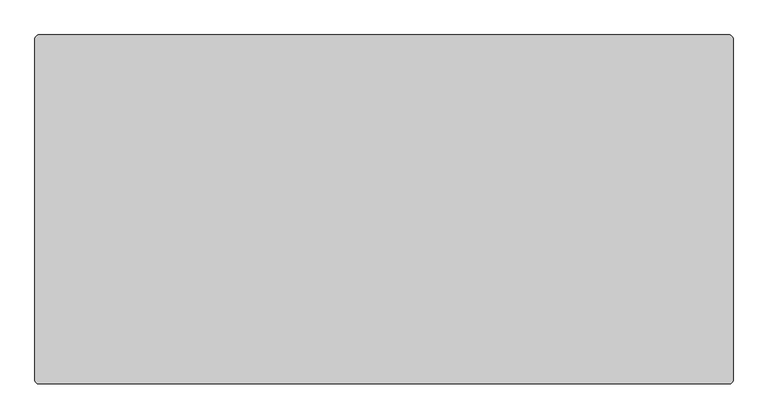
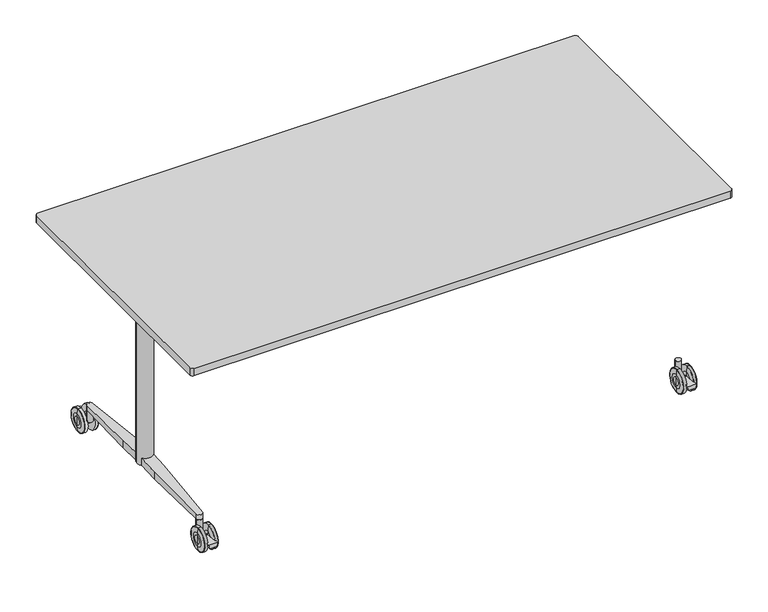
"""IFC4 building model written with IfcOpenShell, lengths in millimetres: furniture geometry."""

from ifc_helpers import new_model, si_unit, point, frame, frame_2d, origin, place, context, project, spatial, polyline, circle_curve, ellipse_curve, trimmed, segment, composite_curve, outline, extrude, source, transform, mapped, element, save
from ifc_brep_helpers import plane_surface, cylinder_surface, revolved_surface, advanced_brep


def furniture_9defe6de(model_context):
    return source(origin(), model_context, "Body", "SolidModel", [
        extrude(outline(composite_curve([segment(trimmed(circle_curve(frame_2d((-890.0, 565.9511544)), 10.0), [point((-900.0, 565.9511544))], [point((-890.0, 575.9511544))], False, "CARTESIAN"), True, "CONTINUOUS"), segment(polyline([(-890.0, 575.9511544), (890.0, 575.9511544)]), True, "CONTINUOUS"), segment(trimmed(circle_curve(frame_2d((890.0, 565.9511544)), 10.0), [point((890.0, 575.9511544))], [point((900.0, 565.9511544))], False, "CARTESIAN"), True, "CONTINUOUS"), segment(polyline([(900.0, 565.9511544), (900.0, -314.0488456)]), True, "CONTINUOUS"), segment(trimmed(circle_curve(frame_2d((890.0, -314.0488456)), 10.0), [point((900.0, -314.0488456))], [point((890.0, -324.0488456))], False, "CARTESIAN"), True, "CONTINUOUS"), segment(polyline([(890.0, -324.0488456), (-890.0, -324.0488456)]), True, "CONTINUOUS"), segment(trimmed(circle_curve(frame_2d((-890.0, -314.0488456)), 10.0), [point((-890.0, -324.0488456))], [point((-900.0, -314.0488456))], False, "CARTESIAN"), True, "CONTINUOUS"), segment(polyline([(-900.0, -314.0488456), (-900.0, 565.9511544)]), True, "CONTINUOUS")], self_intersect=False)), frame((0.0, 0.0, 705.0), z_axis=(0.0, 0.0, 1.0), x_axis=(1.0, 0.0, 0.0)), (0.0, 0.0, 1.0), 25.0),
        extrude(outline(polyline([(46.8012701, -809.9796901), (33.7579803, -807.2784737), (33.7579803, -783.5602115), (46.8012701, -780.8589951), (46.8012701, -809.9796901)])), frame((0.0, -269.0488456, 0.0), z_axis=(0.0, 1.0, 0.0), x_axis=(0.0, 0.0, 1.0)), (0.0, 0.0, 1.0), 50.0),
        extrude(outline(composite_curve([segment(trimmed(circle_curve(frame_2d((-795.5388896, -188.8396127)), 9.5), [point((-805.0388896, -188.8396127))], [point((-786.0388896, -188.8396127))], False, "CARTESIAN"), True, "CONTINUOUS"), segment(trimmed(circle_curve(frame_2d((-795.5388896, -188.8396127)), 9.5), [point((-786.0388896, -188.8396127))], [point((-805.0388896, -188.8396127))], False, "CARTESIAN"), True, "CONTINUOUS")], self_intersect=False)), frame((0.0, 0.0, 50.0000143), z_axis=(0.0, 0.0, 1.0), x_axis=(1.0, 0.0, 0.0)), (0.0, 0.0, 1.0), 38.8098324),
        advanced_brep(
        [(-770.4530674, -219.0488456, 26.9613134), (-770.4530674, -219.0488456, 53.0387194), (-770.4530674, -219.0488456, 40.0000164), (-772.5845915, -219.0488456, 0.8972162), (-772.5845915, -219.0488456, 79.1028166), (-771.0121742, -219.0488456, 63.8876748), (-771.0121742, -219.0488456, 16.1123581), (-783.5439759, -219.0488456, 1.43e-05), (-783.5439759, -219.0488456, 80.0000185), (-773.5792938, -219.0488456, 80.0000185), (-773.5792938, -219.0488456, 1.43e-05), (-785.4530966, -219.0488456, 20.9999281), (-785.4530966, -219.0488456, 59.0001048), (-785.4530966, -219.0488456, 32.3463502), (-785.4530966, -219.0488456, 47.6536826), (-805.3531174, -219.0488456, 32.3463502), (-805.3531174, -219.0488456, 47.6536826), (-805.3531174, -219.0488456, 20.9999281), (-805.3531174, -219.0488456, 59.0001048), (-807.2622381, -219.0488456, 1.43e-05), (-807.2622381, -219.0488456, 80.0000185), (-816.3249398, -219.0488456, 1.43e-05), (-816.3249398, -219.0488456, 80.0000185), (-819.7942336, -219.0488456, 16.1142331), (-819.7942336, -219.0488456, 63.8857997), (-818.3143443, -219.0488456, 78.2056147), (-818.3143443, -219.0488456, 1.7944182), (-820.3531466, -219.0488456, 40.0000164), (-820.3531466, -219.0488456, 53.0406045), (-820.3531466, -219.0488456, 26.9594284)],
        [
            (0, 1, circle_curve(frame((-770.4530674, -219.0488456, 40.0000164), z_axis=(1.0, 0.0, 0.0), x_axis=(0.0, 0.0, 1.0)), 13.038703)),
            (1, 2),
            (2, 0),
            (1, 0, circle_curve(frame((-770.4530674, -219.0488456, 40.0000164), z_axis=(1.0, 0.0, 0.0), x_axis=(0.0, 0.0, 1.0)), 13.038703)),
            (3, 4, circle_curve(frame((-772.5845915, -219.0488456, 40.0000164), z_axis=(1.0, 0.0, 0.0), x_axis=(0.0, 0.0, 1.0)), 39.1028002)),
            (4, 5),
            (5, 6, circle_curve(frame((-771.0121742, -219.0488456, 40.0000164), z_axis=(-1.0, 0.0, 0.0), x_axis=(0.0, 0.0, 1.0)), 23.8876584)),
            (6, 3),
            (4, 3, circle_curve(frame((-772.5845915, -219.0488456, 40.0000164), z_axis=(1.0, 0.0, 0.0), x_axis=(0.0, 0.0, 1.0)), 39.1028002)),
            (6, 5, circle_curve(frame((-771.0121742, -219.0488456, 40.0000164), z_axis=(-1.0, 0.0, 0.0), x_axis=(0.0, 0.0, 1.0)), 23.8876584)),
            (7, 8, circle_curve(frame((-783.5439759, -219.0488456, 40.0000164), z_axis=(1.0, 0.0, 0.0), x_axis=(0.0, 0.0, 1.0)), 40.0000021)),
            (8, 9),
            (9, 10, circle_curve(frame((-773.5792938, -219.0488456, 40.0000164), z_axis=(-1.0, 0.0, 0.0), x_axis=(0.0, 0.0, 1.0)), 40.0000021)),
            (10, 7),
            (8, 7, circle_curve(frame((-783.5439759, -219.0488456, 40.0000164), z_axis=(1.0, 0.0, 0.0), x_axis=(0.0, 0.0, 1.0)), 40.0000021)),
            (10, 9, circle_curve(frame((-773.5792938, -219.0488456, 40.0000164), z_axis=(-1.0, 0.0, 0.0), x_axis=(0.0, 0.0, 1.0)), 40.0000021)),
            (11, 12, circle_curve(frame((-785.4530966, -219.0488456, 40.0000164), z_axis=(1.0, 0.0, 0.0), x_axis=(0.0, 0.0, 1.0)), 19.0000883)),
            (12, 8),
            (7, 11),
            (12, 11, circle_curve(frame((-785.4530966, -219.0488456, 40.0000164), z_axis=(1.0, 0.0, 0.0), x_axis=(0.0, 0.0, 1.0)), 19.0000883)),
            (13, 14, circle_curve(frame((-785.4530966, -219.0488456, 40.0000164), z_axis=(1.0, 0.0, 0.0), x_axis=(0.0, 0.0, 1.0)), 7.6536662)),
            (14, 12),
            (11, 13),
            (14, 13, circle_curve(frame((-785.4530966, -219.0488456, 40.0000164), z_axis=(1.0, 0.0, 0.0), x_axis=(0.0, 0.0, 1.0)), 7.6536662)),
            (15, 16, circle_curve(frame((-805.3531174, -219.0488456, 40.0000164), z_axis=(1.0, 0.0, 0.0), x_axis=(0.0, 0.0, 1.0)), 7.6536662)),
            (16, 14),
            (13, 15),
            (16, 15, circle_curve(frame((-805.3531174, -219.0488456, 40.0000164), z_axis=(1.0, 0.0, 0.0), x_axis=(0.0, 0.0, 1.0)), 7.6536662)),
            (17, 18, circle_curve(frame((-805.3531174, -219.0488456, 40.0000164), z_axis=(1.0, 0.0, 0.0), x_axis=(0.0, 0.0, 1.0)), 19.0000883)),
            (18, 16),
            (15, 17),
            (18, 17, circle_curve(frame((-805.3531174, -219.0488456, 40.0000164), z_axis=(1.0, 0.0, 0.0), x_axis=(0.0, 0.0, 1.0)), 19.0000883)),
            (19, 20, circle_curve(frame((-807.2622381, -219.0488456, 40.0000164), z_axis=(1.0, 0.0, 0.0), x_axis=(0.0, 0.0, 1.0)), 40.0000021)),
            (20, 18),
            (17, 19),
            (20, 19, circle_curve(frame((-807.2622381, -219.0488456, 40.0000164), z_axis=(1.0, 0.0, 0.0), x_axis=(0.0, 0.0, 1.0)), 40.0000021)),
            (21, 22, circle_curve(frame((-816.3249398, -219.0488456, 40.0000164), z_axis=(1.0, 0.0, 0.0), x_axis=(0.0, 0.0, 1.0)), 40.0000021)),
            (22, 20),
            (19, 21),
            (22, 21, circle_curve(frame((-816.3249398, -219.0488456, 40.0000164), z_axis=(1.0, 0.0, 0.0), x_axis=(0.0, 0.0, 1.0)), 40.0000021)),
            (23, 24, circle_curve(frame((-819.7942336, -219.0488456, 40.0000164), z_axis=(1.0, 0.0, 0.0), x_axis=(0.0, 0.0, 1.0)), 23.8857833)),
            (24, 25),
            (25, 26, circle_curve(frame((-818.3143443, -219.0488456, 40.0000164), z_axis=(-1.0, 0.0, 0.0), x_axis=(0.0, 0.0, 1.0)), 38.2055982)),
            (26, 23),
            (24, 23, circle_curve(frame((-819.7942336, -219.0488456, 40.0000164), z_axis=(1.0, 0.0, 0.0), x_axis=(0.0, 0.0, 1.0)), 23.8857833)),
            (26, 25, circle_curve(frame((-818.3143443, -219.0488456, 40.0000164), z_axis=(-1.0, 0.0, 0.0), x_axis=(0.0, 0.0, 1.0)), 38.2055982)),
            (27, 28),
            (28, 29, circle_curve(frame((-820.3531466, -219.0488456, 40.0000164), z_axis=(-1.0, 0.0, 0.0), x_axis=(0.0, 0.0, 1.0)), 13.0405881)),
            (29, 27),
            (29, 28, circle_curve(frame((-820.3531466, -219.0488456, 40.0000164), z_axis=(-1.0, 0.0, 0.0), x_axis=(0.0, 0.0, 1.0)), 13.0405881)),
            (5, 1, circle_curve(frame((-875.9896451, -219.0488456, 53.0387194), z_axis=(0.0, 1.0, 0.0), x_axis=(-1.0, 0.0, 0.0)), 105.5365777)),
            (0, 6, circle_curve(frame((-875.9896451, -219.0488456, 26.9613134), z_axis=(0.0, 1.0, 0.0), x_axis=(-1.0, 0.0, 0.0)), 105.5365777)),
            (9, 4, circle_curve(frame((-773.5792938, -219.0488456, 79.0000185), z_axis=(0.0, 1.0, 0.0), x_axis=(-1.0, 0.0, 0.0)), 1.0)),
            (3, 10, circle_curve(frame((-773.5792938, -219.0488456, 1.0000143), z_axis=(0.0, 1.0, 0.0), x_axis=(-1.0, 0.0, 0.0)), 1.0)),
            (25, 22, circle_curve(frame((-816.3249398, -219.0488456, 78.0000185), z_axis=(0.0, 1.0, 0.0), x_axis=(-1.0, 0.0, 0.0)), 2.0)),
            (21, 26, circle_curve(frame((-816.3249398, -219.0488456, 2.0000143), z_axis=(0.0, 1.0, 0.0), x_axis=(-1.0, 0.0, 0.0)), 2.0)),
            (28, 24, circle_curve(frame((-714.8531466, -219.0488456, 53.0406045), z_axis=(0.0, 1.0, 0.0), x_axis=(-1.0, 0.0, 0.0)), 105.5)),
            (23, 29, circle_curve(frame((-714.8531466, -219.0488456, 26.9594284), z_axis=(0.0, 1.0, 0.0), x_axis=(-1.0, 0.0, 0.0)), 105.5)),
        ],
        [
            plane_surface(frame((-770.4530674, -219.0488456, 40.0000164), z_axis=(1.0, 0.0, 0.0), x_axis=(0.0, 0.0, 1.0))),
            revolved_surface(polyline([(-771.0121742, -219.0488456, 63.8876748), (-772.5845915, -219.0488456, 79.1028166)]), (-836.1531192, -219.0488456, 40.0000164), (-1.0, 0.0, 0.0)),
            cylinder_surface(frame((-836.1531192, -219.0488456, 40.0000164), z_axis=(-1.0, 0.0, 0.0), x_axis=(0.0, 0.0, 1.0)), 40.0000021),
            revolved_surface(polyline([(-783.5439759, -219.0488456, 80.0000185), (-785.4530966, -219.0488456, 59.0001048)]), (-836.1531192, -219.0488456, 40.0000164), (-1.0, 0.0, 0.0)),
            plane_surface(frame((-785.4530966, -219.0488456, 40.0000164), z_axis=(-1.0, 0.0, 0.0), x_axis=(0.0, 0.0, 1.0))),
            cylinder_surface(frame((-836.1531192, -219.0488456, 40.0000164), z_axis=(-1.0, 0.0, 0.0), x_axis=(0.0, 0.0, 1.0)), 7.6536662),
            plane_surface(frame((-805.3531174, -219.0488456, 40.0000164), z_axis=(1.0, 0.0, 0.0), x_axis=(0.0, 0.0, 1.0))),
            revolved_surface(polyline([(-805.3531174, -219.0488456, 59.0001048), (-807.2622381, -219.0488456, 80.0000185)]), (-836.1531192, -219.0488456, 40.0000164), (-1.0, 0.0, 0.0)),
            revolved_surface(polyline([(-818.3143443, -219.0488456, 78.2056147), (-819.7942336, -219.0488456, 63.8857997)]), (-836.1531192, -219.0488456, 40.0000164), (-1.0, 0.0, 0.0)),
            plane_surface(frame((-820.3531466, -219.0488456, 40.0000164), z_axis=(-1.0, 0.0, 0.0), x_axis=(0.0, 0.0, 1.0))),
            revolved_surface(trimmed(ellipse_curve(frame((-875.9896451, -219.0488456, 53.0387194), z_axis=(0.0, -1.0, 0.0), x_axis=(-1.0, 0.0, 0.0)), 105.5365777, 105.5365777), [point((-770.4530674, -219.0488456, 53.0387194))], [point((-771.0121742, -219.0488456, 63.8876748))], True, "CARTESIAN"), (-836.1531192, -219.0488456, 40.0000164), (-1.0, 0.0, 0.0)),
            revolved_surface(trimmed(ellipse_curve(frame((-773.5792938, -219.0488456, 79.0000185), z_axis=(0.0, -1.0, 0.0), x_axis=(-1.0, 0.0, 0.0)), 1.0, 1.0), [point((-772.5845915, -219.0488456, 79.1028166))], [point((-773.5792938, -219.0488456, 80.0000185))], True, "CARTESIAN"), (-836.1531192, -219.0488456, 40.0000164), (-1.0, 0.0, 0.0)),
            revolved_surface(trimmed(ellipse_curve(frame((-816.3249398, -219.0488456, 78.0000185), z_axis=(0.0, -1.0, 0.0), x_axis=(-1.0, 0.0, 0.0)), 2.0, 2.0), [point((-816.3249398, -219.0488456, 80.0000185))], [point((-818.3143443, -219.0488456, 78.2056147))], True, "CARTESIAN"), (-836.1531192, -219.0488456, 40.0000164), (-1.0, 0.0, 0.0)),
            revolved_surface(trimmed(ellipse_curve(frame((-714.8531466, -219.0488456, 53.0406045), z_axis=(0.0, -1.0, 0.0), x_axis=(-1.0, 0.0, 0.0)), 105.5, 105.5), [point((-819.7942336, -219.0488456, 63.8857997))], [point((-820.3531466, -219.0488456, 53.0406045))], True, "CARTESIAN"), (-836.1531192, -219.0488456, 40.0000164), (-1.0, 0.0, 0.0)),
        ],
        [
            (0, [[1, 2, 3]]),
            (0, [[4, -3, -2]]),
            (1, [[5, 6, 7, 8]]),
            (1, [[9, -8, 10, -6]]),
            (2, [[11, 12, 13, 14]]),
            (2, [[15, -14, 16, -12]]),
            (3, [[17, 18, -11, 19]]),
            (3, [[20, -19, -15, -18]]),
            (4, [[21, 22, -17, 23]]),
            (4, [[24, -23, -20, -22]]),
            (5, [[25, 26, -21, 27]]),
            (5, [[28, -27, -24, -26]]),
            (6, [[29, 30, -25, 31]]),
            (6, [[32, -31, -28, -30]]),
            (7, [[33, 34, -29, 35]]),
            (7, [[36, -35, -32, -34]]),
            (2, [[37, 38, -33, 39]]),
            (2, [[40, -39, -36, -38]]),
            (8, [[41, 42, 43, 44]]),
            (8, [[45, -44, 46, -42]]),
            (9, [[47, 48, 49]]),
            (9, [[-49, 50, -47]]),
            (10, [[-7, 51, -1, 52]]),
            (10, [[-10, -52, -4, -51]]),
            (11, [[-13, 53, -5, 54]]),
            (11, [[-16, -54, -9, -53]]),
            (12, [[-43, 55, -37, 56]]),
            (12, [[-46, -56, -40, -55]]),
            (13, [[-48, 57, -41, 58]]),
            (13, [[-50, -58, -45, -57]]),
        ],
    ),
        extrude(outline(polyline([(46.8012701, 809.9796901), (46.8012701, 780.8589951), (33.7579803, 783.5602115), (33.7579803, 807.2784737), (46.8012701, 809.9796901)])), frame((0.0, -269.0488456, 0.0), z_axis=(0.0, 1.0, 0.0), x_axis=(0.0, 0.0, 1.0)), (0.0, 0.0, 1.0), 50.0),
        extrude(outline(composite_curve([segment(trimmed(circle_curve(frame_2d((795.5388896, -188.8396127)), 9.5), [point((805.0388896, -188.8396127))], [point((786.0388896, -188.8396127))], False, "CARTESIAN"), True, "CONTINUOUS"), segment(trimmed(circle_curve(frame_2d((795.5388896, -188.8396127)), 9.5), [point((786.0388896, -188.8396127))], [point((805.0388896, -188.8396127))], False, "CARTESIAN"), True, "CONTINUOUS")], self_intersect=False)), frame((0.0, 0.0, 50.0000143), z_axis=(0.0, 0.0, 1.0), x_axis=(1.0, 0.0, 0.0)), (0.0, 0.0, 1.0), 38.8098324),
        advanced_brep(
        [(770.4530674, -219.0488456, 40.0000164), (770.4530674, -219.0488456, 53.0387194), (770.4530674, -219.0488456, 26.9613134), (771.0121742, -219.0488456, 16.1123581), (771.0121742, -219.0488456, 63.8876748), (772.5845915, -219.0488456, 79.1028166), (772.5845915, -219.0488456, 0.8972162), (773.5792938, -219.0488456, 1.43e-05), (773.5792938, -219.0488456, 80.0000185), (783.5439759, -219.0488456, 80.0000185), (783.5439759, -219.0488456, 1.43e-05), (785.4530966, -219.0488456, 59.0001048), (785.4530966, -219.0488456, 20.9999281), (785.4530966, -219.0488456, 47.6536826), (785.4530966, -219.0488456, 32.3463502), (805.3531174, -219.0488456, 47.6536826), (805.3531174, -219.0488456, 32.3463502), (805.3531174, -219.0488456, 59.0001048), (805.3531174, -219.0488456, 20.9999281), (807.2622381, -219.0488456, 80.0000185), (807.2622381, -219.0488456, 1.43e-05), (816.3249398, -219.0488456, 80.0000185), (816.3249398, -219.0488456, 1.43e-05), (818.3143443, -219.0488456, 1.7944182), (818.3143443, -219.0488456, 78.2056147), (819.7942336, -219.0488456, 63.8857997), (819.7942336, -219.0488456, 16.1142331), (820.3531466, -219.0488456, 26.9594284), (820.3531466, -219.0488456, 53.0406045), (820.3531466, -219.0488456, 40.0000164)],
        [
            (0, 1),
            (1, 2, circle_curve(frame((770.4530674, -219.0488456, 40.0000164), z_axis=(-1.0, 0.0, 0.0), x_axis=(0.0, 0.0, 1.0)), 13.038703)),
            (2, 0),
            (2, 1, circle_curve(frame((770.4530674, -219.0488456, 40.0000164), z_axis=(-1.0, 0.0, 0.0), x_axis=(0.0, 0.0, 1.0)), 13.038703)),
            (3, 4, circle_curve(frame((771.0121742, -219.0488456, 40.0000164), z_axis=(1.0, 0.0, 0.0), x_axis=(0.0, 0.0, 1.0)), 23.8876584)),
            (4, 5),
            (5, 6, circle_curve(frame((772.5845915, -219.0488456, 40.0000164), z_axis=(-1.0, 0.0, 0.0), x_axis=(0.0, 0.0, 1.0)), 39.1028002)),
            (6, 3),
            (4, 3, circle_curve(frame((771.0121742, -219.0488456, 40.0000164), z_axis=(1.0, 0.0, 0.0), x_axis=(0.0, 0.0, 1.0)), 23.8876584)),
            (6, 5, circle_curve(frame((772.5845915, -219.0488456, 40.0000164), z_axis=(-1.0, 0.0, 0.0), x_axis=(0.0, 0.0, 1.0)), 39.1028002)),
            (7, 8, circle_curve(frame((773.5792938, -219.0488456, 40.0000164), z_axis=(1.0, 0.0, 0.0), x_axis=(0.0, 0.0, 1.0)), 40.0000021)),
            (8, 9),
            (9, 10, circle_curve(frame((783.5439759, -219.0488456, 40.0000164), z_axis=(-1.0, 0.0, 0.0), x_axis=(0.0, 0.0, 1.0)), 40.0000021)),
            (10, 7),
            (8, 7, circle_curve(frame((773.5792938, -219.0488456, 40.0000164), z_axis=(1.0, 0.0, 0.0), x_axis=(0.0, 0.0, 1.0)), 40.0000021)),
            (10, 9, circle_curve(frame((783.5439759, -219.0488456, 40.0000164), z_axis=(-1.0, 0.0, 0.0), x_axis=(0.0, 0.0, 1.0)), 40.0000021)),
            (9, 11),
            (11, 12, circle_curve(frame((785.4530966, -219.0488456, 40.0000164), z_axis=(-1.0, 0.0, 0.0), x_axis=(0.0, 0.0, 1.0)), 19.0000883)),
            (12, 10),
            (12, 11, circle_curve(frame((785.4530966, -219.0488456, 40.0000164), z_axis=(-1.0, 0.0, 0.0), x_axis=(0.0, 0.0, 1.0)), 19.0000883)),
            (11, 13),
            (13, 14, circle_curve(frame((785.4530966, -219.0488456, 40.0000164), z_axis=(-1.0, 0.0, 0.0), x_axis=(0.0, 0.0, 1.0)), 7.6536662)),
            (14, 12),
            (14, 13, circle_curve(frame((785.4530966, -219.0488456, 40.0000164), z_axis=(-1.0, 0.0, 0.0), x_axis=(0.0, 0.0, 1.0)), 7.6536662)),
            (13, 15),
            (15, 16, circle_curve(frame((805.3531174, -219.0488456, 40.0000164), z_axis=(-1.0, 0.0, 0.0), x_axis=(0.0, 0.0, 1.0)), 7.6536662)),
            (16, 14),
            (16, 15, circle_curve(frame((805.3531174, -219.0488456, 40.0000164), z_axis=(-1.0, 0.0, 0.0), x_axis=(0.0, 0.0, 1.0)), 7.6536662)),
            (15, 17),
            (17, 18, circle_curve(frame((805.3531174, -219.0488456, 40.0000164), z_axis=(-1.0, 0.0, 0.0), x_axis=(0.0, 0.0, 1.0)), 19.0000883)),
            (18, 16),
            (18, 17, circle_curve(frame((805.3531174, -219.0488456, 40.0000164), z_axis=(-1.0, 0.0, 0.0), x_axis=(0.0, 0.0, 1.0)), 19.0000883)),
            (17, 19),
            (19, 20, circle_curve(frame((807.2622381, -219.0488456, 40.0000164), z_axis=(-1.0, 0.0, 0.0), x_axis=(0.0, 0.0, 1.0)), 40.0000021)),
            (20, 18),
            (20, 19, circle_curve(frame((807.2622381, -219.0488456, 40.0000164), z_axis=(-1.0, 0.0, 0.0), x_axis=(0.0, 0.0, 1.0)), 40.0000021)),
            (19, 21),
            (21, 22, circle_curve(frame((816.3249398, -219.0488456, 40.0000164), z_axis=(-1.0, 0.0, 0.0), x_axis=(0.0, 0.0, 1.0)), 40.0000021)),
            (22, 20),
            (22, 21, circle_curve(frame((816.3249398, -219.0488456, 40.0000164), z_axis=(-1.0, 0.0, 0.0), x_axis=(0.0, 0.0, 1.0)), 40.0000021)),
            (23, 24, circle_curve(frame((818.3143443, -219.0488456, 40.0000164), z_axis=(1.0, 0.0, 0.0), x_axis=(0.0, 0.0, 1.0)), 38.2055982)),
            (24, 25),
            (25, 26, circle_curve(frame((819.7942336, -219.0488456, 40.0000164), z_axis=(-1.0, 0.0, 0.0), x_axis=(0.0, 0.0, 1.0)), 23.8857833)),
            (26, 23),
            (24, 23, circle_curve(frame((818.3143443, -219.0488456, 40.0000164), z_axis=(1.0, 0.0, 0.0), x_axis=(0.0, 0.0, 1.0)), 38.2055982)),
            (26, 25, circle_curve(frame((819.7942336, -219.0488456, 40.0000164), z_axis=(-1.0, 0.0, 0.0), x_axis=(0.0, 0.0, 1.0)), 23.8857833)),
            (27, 28, circle_curve(frame((820.3531466, -219.0488456, 40.0000164), z_axis=(1.0, 0.0, 0.0), x_axis=(0.0, 0.0, 1.0)), 13.0405881)),
            (28, 29),
            (29, 27),
            (28, 27, circle_curve(frame((820.3531466, -219.0488456, 40.0000164), z_axis=(1.0, 0.0, 0.0), x_axis=(0.0, 0.0, 1.0)), 13.0405881)),
            (1, 4, circle_curve(frame((875.9896451, -219.0488456, 53.0387194), z_axis=(0.0, 1.0, 0.0), x_axis=(-1.0, 0.0, 0.0)), 105.5365777)),
            (3, 2, circle_curve(frame((875.9896451, -219.0488456, 26.9613134), z_axis=(0.0, 1.0, 0.0), x_axis=(-1.0, 0.0, 0.0)), 105.5365777)),
            (5, 8, circle_curve(frame((773.5792938, -219.0488456, 79.0000185), z_axis=(0.0, 1.0, 0.0), x_axis=(-1.0, 0.0, 0.0)), 1.0)),
            (7, 6, circle_curve(frame((773.5792938, -219.0488456, 1.0000143), z_axis=(0.0, 1.0, 0.0), x_axis=(-1.0, 0.0, 0.0)), 1.0)),
            (21, 24, circle_curve(frame((816.3249398, -219.0488456, 78.0000185), z_axis=(0.0, 1.0, 0.0), x_axis=(-1.0, 0.0, 0.0)), 2.0)),
            (23, 22, circle_curve(frame((816.3249398, -219.0488456, 2.0000143), z_axis=(0.0, 1.0, 0.0), x_axis=(-1.0, 0.0, 0.0)), 2.0)),
            (25, 28, circle_curve(frame((714.8531466, -219.0488456, 53.0406045), z_axis=(0.0, 1.0, 0.0), x_axis=(-1.0, 0.0, 0.0)), 105.5)),
            (27, 26, circle_curve(frame((714.8531466, -219.0488456, 26.9594284), z_axis=(0.0, 1.0, 0.0), x_axis=(-1.0, 0.0, 0.0)), 105.5)),
        ],
        [
            plane_surface(frame((770.4530674, -219.0488456, 40.0000164), z_axis=(-1.0, 0.0, 0.0), x_axis=(0.0, 0.0, 1.0))),
            revolved_surface(polyline([(772.5845915, -219.0488456, 79.1028166), (771.0121742, -219.0488456, 63.8876748)]), (836.1531192, -219.0488456, 40.0000164), (-1.0, 0.0, 0.0)),
            cylinder_surface(frame((836.1531192, -219.0488456, 40.0000164), z_axis=(-1.0, 0.0, 0.0), x_axis=(0.0, 0.0, 1.0)), 40.0000021),
            revolved_surface(polyline([(785.4530966, -219.0488456, 59.0001048), (783.5439759, -219.0488456, 80.0000185)]), (836.1531192, -219.0488456, 40.0000164), (-1.0, 0.0, 0.0)),
            plane_surface(frame((785.4530966, -219.0488456, 40.0000164), z_axis=(1.0, 0.0, 0.0), x_axis=(0.0, 0.0, 1.0))),
            cylinder_surface(frame((836.1531192, -219.0488456, 40.0000164), z_axis=(-1.0, 0.0, 0.0), x_axis=(0.0, 0.0, 1.0)), 7.6536662),
            plane_surface(frame((805.3531174, -219.0488456, 40.0000164), z_axis=(-1.0, 0.0, 0.0), x_axis=(0.0, 0.0, 1.0))),
            revolved_surface(polyline([(807.2622381, -219.0488456, 80.0000185), (805.3531174, -219.0488456, 59.0001048)]), (836.1531192, -219.0488456, 40.0000164), (-1.0, 0.0, 0.0)),
            revolved_surface(polyline([(819.7942336, -219.0488456, 63.8857997), (818.3143443, -219.0488456, 78.2056147)]), (836.1531192, -219.0488456, 40.0000164), (-1.0, 0.0, 0.0)),
            plane_surface(frame((820.3531466, -219.0488456, 40.0000164), z_axis=(1.0, 0.0, 0.0), x_axis=(0.0, 0.0, 1.0))),
            revolved_surface(trimmed(ellipse_curve(frame((875.9896451, -219.0488456, 53.0387194), z_axis=(0.0, -1.0, 0.0), x_axis=(-1.0, 0.0, 0.0)), 105.5365777, 105.5365777), [point((771.0121742, -219.0488456, 63.8876748))], [point((770.4530674, -219.0488456, 53.0387194))], True, "CARTESIAN"), (836.1531192, -219.0488456, 40.0000164), (-1.0, 0.0, 0.0)),
            revolved_surface(trimmed(ellipse_curve(frame((773.5792938, -219.0488456, 79.0000185), z_axis=(0.0, -1.0, 0.0), x_axis=(-1.0, 0.0, 0.0)), 1.0, 1.0), [point((773.5792938, -219.0488456, 80.0000185))], [point((772.5845915, -219.0488456, 79.1028166))], True, "CARTESIAN"), (836.1531192, -219.0488456, 40.0000164), (-1.0, 0.0, 0.0)),
            revolved_surface(trimmed(ellipse_curve(frame((816.3249398, -219.0488456, 78.0000185), z_axis=(0.0, -1.0, 0.0), x_axis=(-1.0, 0.0, 0.0)), 2.0, 2.0), [point((818.3143443, -219.0488456, 78.2056147))], [point((816.3249398, -219.0488456, 80.0000185))], True, "CARTESIAN"), (836.1531192, -219.0488456, 40.0000164), (-1.0, 0.0, 0.0)),
            revolved_surface(trimmed(ellipse_curve(frame((714.8531466, -219.0488456, 53.0406045), z_axis=(0.0, -1.0, 0.0), x_axis=(-1.0, 0.0, 0.0)), 105.5, 105.5), [point((820.3531466, -219.0488456, 53.0406045))], [point((819.7942336, -219.0488456, 63.8857997))], True, "CARTESIAN"), (836.1531192, -219.0488456, 40.0000164), (-1.0, 0.0, 0.0)),
        ],
        [
            (0, [[1, 2, 3]]),
            (0, [[-3, 4, -1]]),
            (1, [[5, 6, 7, 8]]),
            (1, [[9, -8, 10, -6]]),
            (2, [[11, 12, 13, 14]]),
            (2, [[15, -14, 16, -12]]),
            (3, [[-13, 17, 18, 19]]),
            (3, [[-16, -19, 20, -17]]),
            (4, [[-18, 21, 22, 23]]),
            (4, [[-20, -23, 24, -21]]),
            (5, [[-22, 25, 26, 27]]),
            (5, [[-24, -27, 28, -25]]),
            (6, [[-26, 29, 30, 31]]),
            (6, [[-28, -31, 32, -29]]),
            (7, [[-30, 33, 34, 35]]),
            (7, [[-32, -35, 36, -33]]),
            (2, [[-34, 37, 38, 39]]),
            (2, [[-36, -39, 40, -37]]),
            (8, [[41, 42, 43, 44]]),
            (8, [[45, -44, 46, -42]]),
            (9, [[47, 48, 49]]),
            (9, [[50, -49, -48]]),
            (10, [[-2, 51, -5, 52]]),
            (10, [[-4, -52, -9, -51]]),
            (11, [[-7, 53, -11, 54]]),
            (11, [[-10, -54, -15, -53]]),
            (12, [[-38, 55, -41, 56]]),
            (12, [[-40, -56, -45, -55]]),
            (13, [[-43, 57, -47, 58]]),
            (13, [[-46, -58, -50, -57]]),
        ],
    ),
        extrude(outline(composite_curve([segment(trimmed(circle_curve(frame_2d((-794.9999748, 125.9511544)), 20.0), [point((-814.9999748, 125.9511544))], [point((-774.9999748, 125.9511544))], False, "CARTESIAN"), True, "CONTINUOUS"), segment(trimmed(circle_curve(frame_2d((-794.9999748, 125.9511544)), 20.0), [point((-774.9999748, 125.9511544))], [point((-814.9999748, 125.9511544))], False, "CARTESIAN"), True, "CONTINUOUS")], self_intersect=False)), frame((0.0, 0.0, 656.2373886), z_axis=(0.0, 0.0, 1.0), x_axis=(1.0, 0.0, 0.0)), (0.0, 0.0, 1.0), 15.9928755),
        extrude(outline(composite_curve([segment(trimmed(circle_curve(frame_2d((-794.9999748, 125.9511544)), 22.0748856), [point((-772.9250892, 125.9511544))], [point((-817.0748605, 125.9511544))], False, "CARTESIAN"), True, "CONTINUOUS"), segment(trimmed(circle_curve(frame_2d((-794.9999748, 125.9511544)), 22.0748856), [point((-817.0748605, 125.9511544))], [point((-772.9250892, 125.9511544))], False, "CARTESIAN"), True, "CONTINUOUS")], self_intersect=False)), frame((0.0, 0.0, 648.5142032), z_axis=(0.0, 0.0, 1.0), x_axis=(1.0, 0.0, 0.0)), (0.0, 0.0, 1.0), 7.7231854),
        extrude(outline(composite_curve([segment(trimmed(circle_curve(frame_2d((-794.9999748, 125.9511544)), 21.8066495), [point((-773.1933253, 125.9511544))], [point((-816.8066244, 125.9511544))], False, "CARTESIAN"), True, "CONTINUOUS"), segment(trimmed(circle_curve(frame_2d((-794.9999748, 125.9511544)), 21.8066495), [point((-816.8066244, 125.9511544))], [point((-773.1933253, 125.9511544))], False, "CARTESIAN"), True, "CONTINUOUS")], self_intersect=False)), frame((0.0, 0.0, 672.2302641), z_axis=(0.0, 0.0, 1.0), x_axis=(1.0, 0.0, 0.0)), (0.0, 0.0, 1.0), 12.7697121),
        extrude(outline(composite_curve([segment(trimmed(circle_curve(frame_2d((795.0000252, 125.9511544)), 20.0), [point((775.0000252, 125.9511544))], [point((815.0000252, 125.9511544))], False, "CARTESIAN"), True, "CONTINUOUS"), segment(trimmed(circle_curve(frame_2d((795.0000252, 125.9511544)), 20.0), [point((815.0000252, 125.9511544))], [point((775.0000252, 125.9511544))], False, "CARTESIAN"), True, "CONTINUOUS")], self_intersect=False)), frame((0.0, 0.0, 656.2373886), z_axis=(0.0, 0.0, 1.0), x_axis=(1.0, 0.0, 0.0)), (0.0, 0.0, 1.0), 15.9928755),
        advanced_brep(
        [(-770.4530674, 470.9511544, 40.0000164), (-770.4530674, 470.9511544, 53.0387194), (-770.4530674, 470.9511544, 26.9613134), (-771.0121742, 470.9511544, 16.1123581), (-771.0121742, 470.9511544, 63.8876748), (-772.5845915, 470.9511544, 79.1028166), (-772.5845915, 470.9511544, 0.8972162), (-773.5792938, 470.9511544, 1.43e-05), (-773.5792938, 470.9511544, 80.0000185), (-783.5439759, 470.9511544, 80.0000185), (-783.5439759, 470.9511544, 1.43e-05), (-785.4530966, 470.9511544, 59.0001048), (-785.4530966, 470.9511544, 20.9999281), (-785.4530966, 470.9511544, 47.6536826), (-785.4530966, 470.9511544, 32.3463502), (-805.3531174, 470.9511544, 47.6536826), (-805.3531174, 470.9511544, 32.3463502), (-805.3531174, 470.9511544, 59.0001048), (-805.3531174, 470.9511544, 20.9999281), (-807.2622381, 470.9511544, 80.0000185), (-807.2622381, 470.9511544, 1.43e-05), (-816.3249398, 470.9511544, 80.0000185), (-816.3249398, 470.9511544, 1.43e-05), (-818.3143443, 470.9511544, 1.7944182), (-818.3143443, 470.9511544, 78.2056147), (-819.7942336, 470.9511544, 63.8857997), (-819.7942336, 470.9511544, 16.1142331), (-820.3531466, 470.9511544, 26.9594284), (-820.3531466, 470.9511544, 53.0406045), (-820.3531466, 470.9511544, 40.0000164)],
        [
            (0, 1),
            (1, 2, circle_curve(frame((-770.4530674, 470.9511544, 40.0000164), z_axis=(1.0, 0.0, 0.0), x_axis=(0.0, 0.0, 1.0)), 13.038703)),
            (2, 0),
            (2, 1, circle_curve(frame((-770.4530674, 470.9511544, 40.0000164), z_axis=(1.0, 0.0, 0.0), x_axis=(0.0, 0.0, 1.0)), 13.038703)),
            (3, 4, circle_curve(frame((-771.0121742, 470.9511544, 40.0000164), z_axis=(-1.0, 0.0, 0.0), x_axis=(0.0, 0.0, 1.0)), 23.8876584)),
            (4, 5),
            (5, 6, circle_curve(frame((-772.5845915, 470.9511544, 40.0000164), z_axis=(1.0, 0.0, 0.0), x_axis=(0.0, 0.0, 1.0)), 39.1028002)),
            (6, 3),
            (4, 3, circle_curve(frame((-771.0121742, 470.9511544, 40.0000164), z_axis=(-1.0, 0.0, 0.0), x_axis=(0.0, 0.0, 1.0)), 23.8876584)),
            (6, 5, circle_curve(frame((-772.5845915, 470.9511544, 40.0000164), z_axis=(1.0, 0.0, 0.0), x_axis=(0.0, 0.0, 1.0)), 39.1028002)),
            (7, 8, circle_curve(frame((-773.5792938, 470.9511544, 40.0000164), z_axis=(-1.0, 0.0, 0.0), x_axis=(0.0, 0.0, 1.0)), 40.0000021)),
            (8, 9),
            (9, 10, circle_curve(frame((-783.5439759, 470.9511544, 40.0000164), z_axis=(1.0, 0.0, 0.0), x_axis=(0.0, 0.0, 1.0)), 40.0000021)),
            (10, 7),
            (8, 7, circle_curve(frame((-773.5792938, 470.9511544, 40.0000164), z_axis=(-1.0, 0.0, 0.0), x_axis=(0.0, 0.0, 1.0)), 40.0000021)),
            (10, 9, circle_curve(frame((-783.5439759, 470.9511544, 40.0000164), z_axis=(1.0, 0.0, 0.0), x_axis=(0.0, 0.0, 1.0)), 40.0000021)),
            (9, 11),
            (11, 12, circle_curve(frame((-785.4530966, 470.9511544, 40.0000164), z_axis=(1.0, 0.0, 0.0), x_axis=(0.0, 0.0, 1.0)), 19.0000883)),
            (12, 10),
            (12, 11, circle_curve(frame((-785.4530966, 470.9511544, 40.0000164), z_axis=(1.0, 0.0, 0.0), x_axis=(0.0, 0.0, 1.0)), 19.0000883)),
            (11, 13),
            (13, 14, circle_curve(frame((-785.4530966, 470.9511544, 40.0000164), z_axis=(1.0, 0.0, 0.0), x_axis=(0.0, 0.0, 1.0)), 7.6536662)),
            (14, 12),
            (14, 13, circle_curve(frame((-785.4530966, 470.9511544, 40.0000164), z_axis=(1.0, 0.0, 0.0), x_axis=(0.0, 0.0, 1.0)), 7.6536662)),
            (13, 15),
            (15, 16, circle_curve(frame((-805.3531174, 470.9511544, 40.0000164), z_axis=(1.0, 0.0, 0.0), x_axis=(0.0, 0.0, 1.0)), 7.6536662)),
            (16, 14),
            (16, 15, circle_curve(frame((-805.3531174, 470.9511544, 40.0000164), z_axis=(1.0, 0.0, 0.0), x_axis=(0.0, 0.0, 1.0)), 7.6536662)),
            (15, 17),
            (17, 18, circle_curve(frame((-805.3531174, 470.9511544, 40.0000164), z_axis=(1.0, 0.0, 0.0), x_axis=(0.0, 0.0, 1.0)), 19.0000883)),
            (18, 16),
            (18, 17, circle_curve(frame((-805.3531174, 470.9511544, 40.0000164), z_axis=(1.0, 0.0, 0.0), x_axis=(0.0, 0.0, 1.0)), 19.0000883)),
            (17, 19),
            (19, 20, circle_curve(frame((-807.2622381, 470.9511544, 40.0000164), z_axis=(1.0, 0.0, 0.0), x_axis=(0.0, 0.0, 1.0)), 40.0000021)),
            (20, 18),
            (20, 19, circle_curve(frame((-807.2622381, 470.9511544, 40.0000164), z_axis=(1.0, 0.0, 0.0), x_axis=(0.0, 0.0, 1.0)), 40.0000021)),
            (19, 21),
            (21, 22, circle_curve(frame((-816.3249398, 470.9511544, 40.0000164), z_axis=(1.0, 0.0, 0.0), x_axis=(0.0, 0.0, 1.0)), 40.0000021)),
            (22, 20),
            (22, 21, circle_curve(frame((-816.3249398, 470.9511544, 40.0000164), z_axis=(1.0, 0.0, 0.0), x_axis=(0.0, 0.0, 1.0)), 40.0000021)),
            (23, 24, circle_curve(frame((-818.3143443, 470.9511544, 40.0000164), z_axis=(-1.0, 0.0, 0.0), x_axis=(0.0, 0.0, 1.0)), 38.2055982)),
            (24, 25),
            (25, 26, circle_curve(frame((-819.7942336, 470.9511544, 40.0000164), z_axis=(1.0, 0.0, 0.0), x_axis=(0.0, 0.0, 1.0)), 23.8857833)),
            (26, 23),
            (24, 23, circle_curve(frame((-818.3143443, 470.9511544, 40.0000164), z_axis=(-1.0, 0.0, 0.0), x_axis=(0.0, 0.0, 1.0)), 38.2055982)),
            (26, 25, circle_curve(frame((-819.7942336, 470.9511544, 40.0000164), z_axis=(1.0, 0.0, 0.0), x_axis=(0.0, 0.0, 1.0)), 23.8857833)),
            (27, 28, circle_curve(frame((-820.3531466, 470.9511544, 40.0000164), z_axis=(-1.0, 0.0, 0.0), x_axis=(0.0, 0.0, 1.0)), 13.0405881)),
            (28, 29),
            (29, 27),
            (28, 27, circle_curve(frame((-820.3531466, 470.9511544, 40.0000164), z_axis=(-1.0, 0.0, 0.0), x_axis=(0.0, 0.0, 1.0)), 13.0405881)),
            (1, 4, circle_curve(frame((-875.9896451, 470.9511544, 53.0387194), z_axis=(0.0, -1.0, 0.0), x_axis=(-1.0, 0.0, 0.0)), 105.5365777)),
            (3, 2, circle_curve(frame((-875.9896451, 470.9511544, 26.9613134), z_axis=(0.0, -1.0, 0.0), x_axis=(-1.0, 0.0, 0.0)), 105.5365777)),
            (5, 8, circle_curve(frame((-773.5792938, 470.9511544, 79.0000185), z_axis=(0.0, -1.0, 0.0), x_axis=(-1.0, 0.0, 0.0)), 1.0)),
            (7, 6, circle_curve(frame((-773.5792938, 470.9511544, 1.0000143), z_axis=(0.0, -1.0, 0.0), x_axis=(-1.0, 0.0, 0.0)), 1.0)),
            (21, 24, circle_curve(frame((-816.3249398, 470.9511544, 78.0000185), z_axis=(0.0, -1.0, 0.0), x_axis=(-1.0, 0.0, 0.0)), 2.0)),
            (23, 22, circle_curve(frame((-816.3249398, 470.9511544, 2.0000143), z_axis=(0.0, -1.0, 0.0), x_axis=(-1.0, 0.0, 0.0)), 2.0)),
            (25, 28, circle_curve(frame((-714.8531466, 470.9511544, 53.0406045), z_axis=(0.0, -1.0, 0.0), x_axis=(-1.0, 0.0, 0.0)), 105.5)),
            (27, 26, circle_curve(frame((-714.8531466, 470.9511544, 26.9594284), z_axis=(0.0, -1.0, 0.0), x_axis=(-1.0, 0.0, 0.0)), 105.5)),
        ],
        [
            plane_surface(frame((-770.4530674, 470.9511544, 40.0000164), z_axis=(1.0, 0.0, 0.0), x_axis=(0.0, 0.0, 1.0))),
            revolved_surface(polyline([(-772.5845915, 470.9511544, 79.1028166), (-771.0121742, 470.9511544, 63.8876748)]), (-836.1531192, 470.9511544, 40.0000164), (1.0, 0.0, 0.0)),
            cylinder_surface(frame((-836.1531192, 470.9511544, 40.0000164), z_axis=(1.0, 0.0, 0.0), x_axis=(0.0, 0.0, 1.0)), 40.0000021),
            revolved_surface(polyline([(-785.4530966, 470.9511544, 59.0001048), (-783.5439759, 470.9511544, 80.0000185)]), (-836.1531192, 470.9511544, 40.0000164), (1.0, 0.0, 0.0)),
            plane_surface(frame((-785.4530966, 470.9511544, 40.0000164), z_axis=(-1.0, 0.0, 0.0), x_axis=(0.0, 0.0, 1.0))),
            cylinder_surface(frame((-836.1531192, 470.9511544, 40.0000164), z_axis=(1.0, 0.0, 0.0), x_axis=(0.0, 0.0, 1.0)), 7.6536662),
            plane_surface(frame((-805.3531174, 470.9511544, 40.0000164), z_axis=(1.0, 0.0, 0.0), x_axis=(0.0, 0.0, 1.0))),
            revolved_surface(polyline([(-807.2622381, 470.9511544, 80.0000185), (-805.3531174, 470.9511544, 59.0001048)]), (-836.1531192, 470.9511544, 40.0000164), (1.0, 0.0, 0.0)),
            revolved_surface(polyline([(-819.7942336, 470.9511544, 63.8857997), (-818.3143443, 470.9511544, 78.2056147)]), (-836.1531192, 470.9511544, 40.0000164), (1.0, 0.0, 0.0)),
            plane_surface(frame((-820.3531466, 470.9511544, 40.0000164), z_axis=(-1.0, 0.0, 0.0), x_axis=(0.0, 0.0, 1.0))),
            revolved_surface(trimmed(ellipse_curve(frame((-875.9896451, 470.9511544, 53.0387194), z_axis=(0.0, 1.0, 0.0), x_axis=(-1.0, 0.0, 0.0)), 105.5365777, 105.5365777), [point((-771.0121742, 470.9511544, 63.8876748))], [point((-770.4530674, 470.9511544, 53.0387194))], True, "CARTESIAN"), (-836.1531192, 470.9511544, 40.0000164), (1.0, 0.0, 0.0)),
            revolved_surface(trimmed(ellipse_curve(frame((-773.5792938, 470.9511544, 79.0000185), z_axis=(0.0, 1.0, 0.0), x_axis=(-1.0, 0.0, 0.0)), 1.0, 1.0), [point((-773.5792938, 470.9511544, 80.0000185))], [point((-772.5845915, 470.9511544, 79.1028166))], True, "CARTESIAN"), (-836.1531192, 470.9511544, 40.0000164), (1.0, 0.0, 0.0)),
            revolved_surface(trimmed(ellipse_curve(frame((-816.3249398, 470.9511544, 78.0000185), z_axis=(0.0, 1.0, 0.0), x_axis=(-1.0, 0.0, 0.0)), 2.0, 2.0), [point((-818.3143443, 470.9511544, 78.2056147))], [point((-816.3249398, 470.9511544, 80.0000185))], True, "CARTESIAN"), (-836.1531192, 470.9511544, 40.0000164), (1.0, 0.0, 0.0)),
            revolved_surface(trimmed(ellipse_curve(frame((-714.8531466, 470.9511544, 53.0406045), z_axis=(0.0, 1.0, 0.0), x_axis=(-1.0, 0.0, 0.0)), 105.5, 105.5), [point((-820.3531466, 470.9511544, 53.0406045))], [point((-819.7942336, 470.9511544, 63.8857997))], True, "CARTESIAN"), (-836.1531192, 470.9511544, 40.0000164), (1.0, 0.0, 0.0)),
        ],
        [
            (0, [[1, 2, 3]]),
            (0, [[-3, 4, -1]]),
            (1, [[5, 6, 7, 8]]),
            (1, [[9, -8, 10, -6]]),
            (2, [[11, 12, 13, 14]]),
            (2, [[15, -14, 16, -12]]),
            (3, [[-13, 17, 18, 19]]),
            (3, [[-16, -19, 20, -17]]),
            (4, [[-18, 21, 22, 23]]),
            (4, [[-20, -23, 24, -21]]),
            (5, [[-22, 25, 26, 27]]),
            (5, [[-24, -27, 28, -25]]),
            (6, [[-26, 29, 30, 31]]),
            (6, [[-28, -31, 32, -29]]),
            (7, [[-30, 33, 34, 35]]),
            (7, [[-32, -35, 36, -33]]),
            (2, [[-34, 37, 38, 39]]),
            (2, [[-36, -39, 40, -37]]),
            (8, [[41, 42, 43, 44]]),
            (8, [[45, -44, 46, -42]]),
            (9, [[47, 48, 49]]),
            (9, [[50, -49, -48]]),
            (10, [[-2, 51, -5, 52]]),
            (10, [[-4, -52, -9, -51]]),
            (11, [[-7, 53, -11, 54]]),
            (11, [[-10, -54, -15, -53]]),
            (12, [[-38, 55, -41, 56]]),
            (12, [[-40, -56, -45, -55]]),
            (13, [[-43, 57, -47, 58]]),
            (13, [[-46, -58, -50, -57]]),
        ],
    ),
        advanced_brep(
        [(-815.0000252, 110.1174444, 125.5064747), (-815.0000252, 110.1174444, 100.5064747), (-815.0000252, 36.3357458, 97.6123077), (-815.0000252, 36.3357458, 120.8620068), (-775.0000252, 110.1174444, 100.5064747), (-775.0000252, 110.1174444, 125.5064747), (-775.0000252, 51.0810607, 121.7902064), (-775.0000252, 51.0810607, 98.1907086), (-785.2872838, -188.0675149, 88.8098467), (-805.336693, -188.0675149, 88.8098467), (-805.2954923, -189.0242831, 106.6758676), (-785.3284401, -189.0242798, 106.6758678), (-785.3284401, -189.0242798, 88.8098467), (-805.2954923, -189.0242831, 88.8098467)],
        [
            (0, 1),
            (1, 2),
            (2, 3),
            (3, 0),
            (4, 5),
            (5, 6),
            (6, 7),
            (7, 4),
            (1, 4),
            (7, 8),
            (8, 9),
            (9, 2),
            (5, 0),
            (3, 10),
            (10, 11, ellipse_curve(frame((-795.3119663, -188.4505156, 106.7119856), z_axis=(0.0, -0.06282443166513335, 0.9980245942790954), x_axis=(0.0, -0.9980245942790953, -0.06282443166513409)), 10.0197932, 10.0)),
            (11, 6),
            (8, 12),
            (12, 13, circle_curve(frame((-795.3119663, -188.4505156, 88.8098467), z_axis=(0.0, 0.0, -1.0), x_axis=(1.0, 0.0, 0.0)), 10.0)),
            (13, 9),
            (11, 12),
            (10, 13),
        ],
        [
            plane_surface(frame((-815.0000252, -188.0675149, 88.8098467), z_axis=(-1.0, 0.0, 0.0), x_axis=(0.0, -1.0, 0.0))),
            plane_surface(frame((-775.0000252, -188.0675149, 88.8098467), z_axis=(1.0, 0.0, 0.0), x_axis=(0.0, 1.0, 0.0))),
            plane_surface(frame((-815.0000252, 110.1174444, 100.5064747), z_axis=(0.0, 0.039195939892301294, -0.9992315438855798), x_axis=(1.0, 0.0, 0.0))),
            plane_surface(frame((-815.0000252, -199.5346363, 106.0142537), z_axis=(0.0, -0.06282443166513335, 0.9980245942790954), x_axis=(1.0, 0.0, 0.0))),
            plane_surface(frame((-815.0000252, -188.0675149, 88.8098467), z_axis=(0.0, 0.0, -1.0), x_axis=(1.0, 0.0, 0.0))),
            plane_surface(frame((-815.0000252, 110.1174444, 125.5064747), z_axis=(0.0, 1.0, 0.0), x_axis=(1.0, 0.0, 0.0))),
            plane_surface(frame((-772.5013837, 109.1671434, 234.8098558), z_axis=(0.9990760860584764, -0.0429764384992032, 0.0), x_axis=(0.0, 0.0, -1.0))),
            cylinder_surface(frame((-795.3119663, -188.4505156, -14.1901527), z_axis=(0.0, 0.0, -1.0), x_axis=(1.0, 0.0, 0.0)), 10.0),
            plane_surface(frame((-805.2954923, -189.0242831, 234.8098558), z_axis=(-0.99907410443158, -0.043022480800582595, 0.0), x_axis=(0.0, 0.0, -1.0))),
        ],
        [
            (0, [[1, 2, 3, 4]]),
            (1, [[5, 6, 7, 8]]),
            (2, [[9, -8, 10, 11, 12, -2]]),
            (3, [[13, -4, 14, 15, 16, -6]]),
            (4, [[-11, 17, 18, 19]]),
            (5, [[-1, -13, -5, -9]]),
            (6, [[20, -17, -10, -7, -16]]),
            (7, [[-20, -15, 21, -18]]),
            (8, [[-21, -14, -3, -12, -19]]),
        ],
    ),
        advanced_brep(
        [(-815.0000252, 141.7848644, 100.5064747), (-815.0000252, 141.7848644, 125.5064747), (-815.0000252, 215.566563, 120.8620068), (-815.0000252, 215.566563, 97.6123077), (-775.0000252, 141.7848644, 125.5064747), (-775.0000252, 141.7848644, 100.5064747), (-775.0000252, 200.8212482, 98.1907086), (-775.0000252, 200.8212482, 121.7902064), (-805.336693, 439.9698238, 88.8098467), (-785.2872838, 439.9698238, 88.8098467), (-785.3284401, 440.9265887, 106.6758678), (-805.2954923, 440.926592, 106.6758676), (-805.2954923, 440.926592, 88.8098467), (-785.3284401, 440.9265887, 88.8098467)],
        [
            (0, 1),
            (1, 2),
            (2, 3),
            (3, 0),
            (4, 5),
            (5, 6),
            (6, 7),
            (7, 4),
            (5, 0),
            (3, 8),
            (8, 9),
            (9, 6),
            (4, 1),
            (7, 10),
            (10, 11, ellipse_curve(frame((-795.3119663, 440.3528245, 106.7119856), z_axis=(0.0, 0.06282443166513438, 0.9980245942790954), x_axis=(0.0, 0.9980245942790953, -0.06282443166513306)), 10.0197932, 10.0)),
            (11, 2),
            (8, 12),
            (12, 13, circle_curve(frame((-795.3119663, 440.3528245, 88.8098467), z_axis=(0.0, 0.0, -1.0), x_axis=(1.0, 0.0, 0.0)), 10.0)),
            (13, 9),
            (13, 10),
            (12, 11),
        ],
        [
            plane_surface(frame((-815.0000252, -188.0675149, 88.8098467), z_axis=(-1.0, 0.0, 0.0), x_axis=(0.0, -1.0, 0.0))),
            plane_surface(frame((-775.0000252, -188.0675149, 88.8098467), z_axis=(1.0, 0.0, 0.0), x_axis=(0.0, 1.0, 0.0))),
            plane_surface(frame((-815.0000252, 439.9698238, 88.8098467), z_axis=(0.0, -0.03919593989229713, -0.9992315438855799), x_axis=(1.0, 0.0, 0.0))),
            plane_surface(frame((-815.0000252, 141.7848644, 100.5064747), z_axis=(0.0, -1.0, 0.0), x_axis=(1.0, 0.0, 0.0))),
            plane_surface(frame((-815.0000252, 141.7848644, 125.5064747), z_axis=(0.0, 0.06282443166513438, 0.9980245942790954), x_axis=(1.0, 0.0, 0.0))),
            plane_surface(frame((-815.0000252, 451.4369452, 88.8098467), z_axis=(0.0, 0.0, -1.0), x_axis=(1.0, 0.0, 0.0))),
            plane_surface(frame((-785.3284401, 440.9265887, 234.8098558), z_axis=(0.999076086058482, 0.042976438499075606, 0.0), x_axis=(0.0, 0.0, -1.0))),
            cylinder_surface(frame((-795.3119663, 440.3528245, -14.1901527), z_axis=(0.0, 0.0, -1.0), x_axis=(1.0, 0.0, 0.0)), 10.0),
            plane_surface(frame((-818.1772387, 141.7848644, 234.8098558), z_axis=(-0.9990741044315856, 0.043022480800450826, 0.0), x_axis=(0.0, 0.0, -1.0))),
        ],
        [
            (0, [[1, 2, 3, 4]]),
            (1, [[5, 6, 7, 8]]),
            (2, [[9, -4, 10, 11, 12, -6]]),
            (3, [[-1, -9, -5, 13]]),
            (4, [[-13, -8, 14, 15, 16, -2]]),
            (5, [[-11, 17, 18, 19]]),
            (6, [[20, -14, -7, -12, -19]]),
            (7, [[-20, -18, 21, -15]]),
            (8, [[-21, -17, -10, -3, -16]]),
        ],
    ),
        extrude(outline(polyline([(46.8012701, -809.9796901), (33.7579803, -807.2784737), (33.7579803, -783.5602115), (46.8012701, -780.8589951), (46.8012701, -809.9796901)])), frame((0.0, 470.9511544, 0.0), z_axis=(0.0, 1.0, 0.0), x_axis=(0.0, 0.0, 1.0)), (0.0, 0.0, 1.0), 50.0),
        extrude(outline(composite_curve([segment(trimmed(circle_curve(frame_2d((-795.5388896, 440.7419216)), 9.5), [point((-805.0388896, 440.7419216))], [point((-786.0388896, 440.7419216))], False, "CARTESIAN"), True, "CONTINUOUS"), segment(trimmed(circle_curve(frame_2d((-795.5388896, 440.7419216)), 9.5), [point((-786.0388896, 440.7419216))], [point((-805.0388896, 440.7419216))], False, "CARTESIAN"), True, "CONTINUOUS")], self_intersect=False)), frame((0.0, 0.0, 50.0000143), z_axis=(0.0, 0.0, 1.0), x_axis=(1.0, 0.0, 0.0)), (0.0, 0.0, 1.0), 38.8098324),
        extrude(outline(composite_curve([segment(trimmed(circle_curve(frame_2d((-795.0, 125.9511544)), 26.0), [point((-821.0, 125.9511544))], [point((-769.0, 125.9511544))], False, "CARTESIAN"), True, "CONTINUOUS"), segment(trimmed(circle_curve(frame_2d((-795.0, 125.9511544)), 26.0), [point((-769.0, 125.9511544))], [point((-821.0, 125.9511544))], False, "CARTESIAN"), True, "CONTINUOUS")], self_intersect=False)), frame((0.0, 0.0, 100.2652558), z_axis=(0.0, 0.0, 1.0), x_axis=(1.0, 0.0, 0.0)), (0.0, 0.0, 1.0), 548.2489474),
        extrude(outline(polyline([(-765.0000395, 472.9511544), (-765.0000395, -221.0488456), (-825.0000109, -221.0488456), (-825.0000109, 472.9511544), (-765.0000395, 472.9511544)])), frame((0.0, 0.0, 684.9999762), z_axis=(0.0, 0.0, 1.0), x_axis=(1.0, 0.0, 0.0)), (0.0, 0.0, 1.0), 20.0000238),
    ])


if __name__ == "__main__":
    model = new_model("IFC4")
    model_context = context("Model", 3, world=origin())
    ifc_project = project(units=[si_unit("LENGTHUNIT", "METRE", prefix="MILLI")], contexts=[model_context])
    site = spatial("IfcSite", under=ifc_project)
    building = spatial("IfcBuilding", under=site)
    placement = place(None, origin())
    furniture_shape = furniture_9defe6de(model_context)
    element("IfcFurniture", 1, at=placement, inside=building, context=model_context, shape_type="MappedRepresentation", body=[
        mapped(furniture_shape, transform((0.0, 0.0, 0.0), x_axis=(1.0, 0.0, 0.0), y_axis=(0.0, 1.0, 0.0), z_axis=(0.0, 0.0, 1.0))),
    ])
    save(model, "model.ifc")
